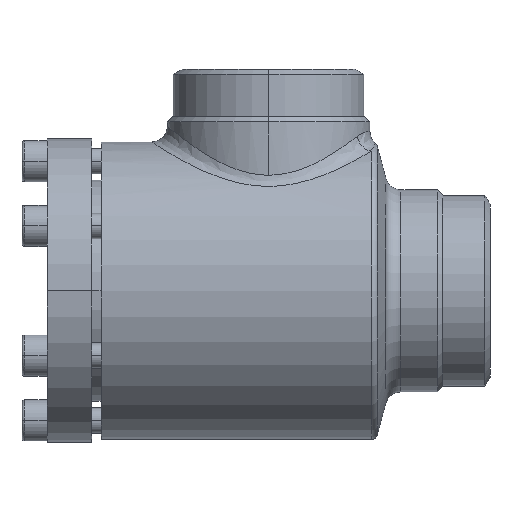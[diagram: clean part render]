
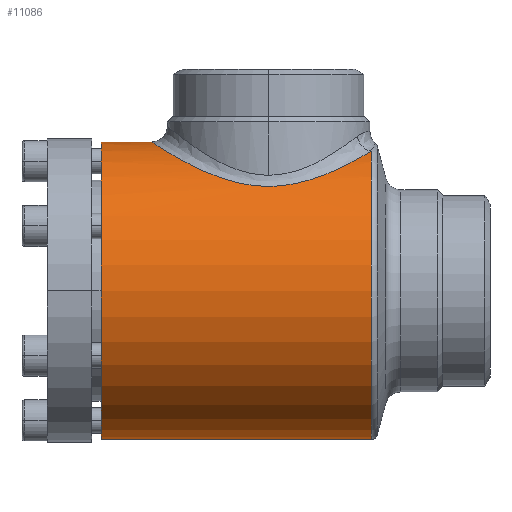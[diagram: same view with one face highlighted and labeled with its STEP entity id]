
A CAD part, left-side view. The second image highlights one B-rep face of the part: STEP entity #11086.
In plain terms, the highlighted cylindrical face has radius 47 mm (diameter 94 mm), a partial arc.
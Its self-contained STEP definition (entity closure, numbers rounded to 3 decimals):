
#1839 = EDGE_CURVE ( 'NONE', #11188, #7165, #8191, .T. ) ;
#3455 = VERTEX_POINT ( 'NONE', #12096 ) ;
#3725 = ORIENTED_EDGE ( 'NONE', *, *, #10987, .T. ) ;
#6629 = EDGE_CURVE ( 'NONE', #7398, #3455, #8636, .T. ) ;
#6778 = ORIENTED_EDGE ( 'NONE', *, *, #1839, .F. ) ;
#6964 = ORIENTED_EDGE ( 'NONE', *, *, #6629, .T. ) ;
#7165 = VERTEX_POINT ( 'NONE', #10686 ) ;
#7398 = VERTEX_POINT ( 'NONE', #10755 ) ;
#8191 = CIRCLE ( 'NONE', #8192, 47. ) ;
#8192 = AXIS2_PLACEMENT_3D ( 'NONE', #8193, #8194, #8195 ) ;
#8193 = CARTESIAN_POINT ( 'NONE',  ( 0., 0., 0. ) ) ;
#8194 = DIRECTION ( 'NONE',  ( 0., 1., 0. ) ) ;
#8195 = DIRECTION ( 'NONE',  ( 0., 0., 1. ) ) ;
#8326 = CARTESIAN_POINT ( 'NONE',  ( 0., 0., -47. ) ) ;
#8623 = LINE ( 'NONE', #8624, #8625 ) ;
#8624 = CARTESIAN_POINT ( 'NONE',  ( 0., -91., -47. ) ) ;
#8625 = VECTOR ( 'NONE', #8626, 1000. ) ;
#8626 = DIRECTION ( 'NONE',  ( 0., 1., 0. ) ) ;
#8636 = B_SPLINE_CURVE_WITH_KNOTS ( 'NONE', 3,
 ( #8637, #8638, #8639, #8640, #8641, #8642, #8643, #8644, #8645, #8646, #8647, #8648, #8649, #8651, #8652, #8653, #8654, #8655, #8656, #8657, #8658, #8659, #8660, #8661, #8662, #8663, #8664, #8665, #8666, #8669, #8670, #8671, #8672, #8673, #8674, #8675, #8676, #8677, #8678, #8679, #8680, #8681, #8682, #8683, #8684, #8686, #8687, #8688, #8689, #8690, #8691, #8692, #8693, #8694, #8695, #8696, #8697, #8698, #8699, #8700, #8701, #8704 ),
 .UNSPECIFIED., .F., .F.,
 ( 4, 2, 2, 2, 2, 2, 2, 2, 2, 2, 2, 2, 2, 2, 2, 2, 2, 2, 2, 2, 2, 2, 2, 2, 2, 2, 2, 2, 2, 2, 4 ),
 ( 0.017, 0.023, 0.026, 0.029, 0.035, 0.039, 0.04, 0.042, 0.048, 0.051, 0.052, 0.054, 0.06, 0.063, 0.066, 0.069, 0.072, 0.078, 0.081, 0.083, 0.084, 0.09, 0.093, 0.095, 0.096, 0.103, 0.106, 0.107, 0.109, 0.112, 0.115 ),
 .UNSPECIFIED. ) ;
#8637 = CARTESIAN_POINT ( 'NONE',  ( -16.073, -85.446, 44.166 ) ) ;
#8638 = CARTESIAN_POINT ( 'NONE',  ( -17.749, -84.43, 43.556 ) ) ;
#8639 = CARTESIAN_POINT ( 'NONE',  ( -19.293, -83.29, 42.887 ) ) ;
#8640 = CARTESIAN_POINT ( 'NONE',  ( -21.444, -81.41, 41.831 ) ) ;
#8641 = CARTESIAN_POINT ( 'NONE',  ( -22.133, -80.755, 41.469 ) ) ;
#8642 = CARTESIAN_POINT ( 'NONE',  ( -23.459, -79.389, 40.734 ) ) ;
#8643 = CARTESIAN_POINT ( 'NONE',  ( -24.096, -78.676, 40.359 ) ) ;
#8644 = CARTESIAN_POINT ( 'NONE',  ( -25.907, -76.48, 39.24 ) ) ;
#8645 = CARTESIAN_POINT ( 'NONE',  ( -26.989, -74.936, 38.497 ) ) ;
#8646 = CARTESIAN_POINT ( 'NONE',  ( -28.44, -72.491, 37.424 ) ) ;
#8647 = CARTESIAN_POINT ( 'NONE',  ( -28.894, -71.655, 37.073 ) ) ;
#8648 = CARTESIAN_POINT ( 'NONE',  ( -29.533, -70.366, 36.563 ) ) ;
#8649 = CARTESIAN_POINT ( 'NONE',  ( -29.739, -69.93, 36.396 ) ) ;
#8651 = CARTESIAN_POINT ( 'NONE',  ( -30.137, -69.047, 36.067 ) ) ;
#8652 = CARTESIAN_POINT ( 'NONE',  ( -30.328, -68.599, 35.906 ) ) ;
#8653 = CARTESIAN_POINT ( 'NONE',  ( -31.243, -66.344, 35.126 ) ) ;
#8654 = CARTESIAN_POINT ( 'NONE',  ( -31.842, -64.482, 34.576 ) ) ;
#8655 = CARTESIAN_POINT ( 'NONE',  ( -32.541, -61.591, 33.914 ) ) ;
#8656 = CARTESIAN_POINT ( 'NONE',  ( -32.74, -60.61, 33.721 ) ) ;
#8657 = CARTESIAN_POINT ( 'NONE',  ( -32.986, -59.111, 33.48 ) ) ;
#8658 = CARTESIAN_POINT ( 'NONE',  ( -33.059, -58.608, 33.408 ) ) ;
#8659 = CARTESIAN_POINT ( 'NONE',  ( -33.186, -57.603, 33.282 ) ) ;
#8660 = CARTESIAN_POINT ( 'NONE',  ( -33.239, -57.1, 33.229 ) ) ;
#8661 = CARTESIAN_POINT ( 'NONE',  ( -33.462, -54.583, 33.006 ) ) ;
#8662 = CARTESIAN_POINT ( 'NONE',  ( -33.49, -52.562, 32.976 ) ) ;
#8663 = CARTESIAN_POINT ( 'NONE',  ( -33.307, -49.52, 33.161 ) ) ;
#8664 = CARTESIAN_POINT ( 'NONE',  ( -33.207, -48.498, 33.262 ) ) ;
#8665 = CARTESIAN_POINT ( 'NONE',  ( -32.933, -46.49, 33.532 ) ) ;
#8666 = CARTESIAN_POINT ( 'NONE',  ( -32.761, -45.501, 33.702 ) ) ;
#8669 = CARTESIAN_POINT ( 'NONE',  ( -32.346, -43.55, 34.1 ) ) ;
#8670 = CARTESIAN_POINT ( 'NONE',  ( -32.103, -42.587, 34.33 ) ) ;
#8671 = CARTESIAN_POINT ( 'NONE',  ( -31.549, -40.688, 34.839 ) ) ;
#8672 = CARTESIAN_POINT ( 'NONE',  ( -31.237, -39.749, 35.121 ) ) ;
#8673 = CARTESIAN_POINT ( 'NONE',  ( -30.211, -37.009, 36.016 ) ) ;
#8674 = CARTESIAN_POINT ( 'NONE',  ( -29.406, -35.272, 36.683 ) ) ;
#8675 = CARTESIAN_POINT ( 'NONE',  ( -28.021, -32.781, 37.738 ) ) ;
#8676 = CARTESIAN_POINT ( 'NONE',  ( -27.529, -31.97, 38.099 ) ) ;
#8677 = CARTESIAN_POINT ( 'NONE',  ( -26.744, -30.781, 38.65 ) ) ;
#8678 = CARTESIAN_POINT ( 'NONE',  ( -26.475, -30.389, 38.835 ) ) ;
#8679 = CARTESIAN_POINT ( 'NONE',  ( -25.92, -29.615, 39.208 ) ) ;
#8680 = CARTESIAN_POINT ( 'NONE',  ( -25.634, -29.233, 39.396 ) ) ;
#8681 = CARTESIAN_POINT ( 'NONE',  ( -24.175, -27.357, 40.33 ) ) ;
#8682 = CARTESIAN_POINT ( 'NONE',  ( -22.902, -25.964, 41.072 ) ) ;
#8683 = CARTESIAN_POINT ( 'NONE',  ( -20.822, -24.029, 42.143 ) ) ;
#8684 = CARTESIAN_POINT ( 'NONE',  ( -20.099, -23.411, 42.494 ) ) ;
#8686 = CARTESIAN_POINT ( 'NONE',  ( -18.969, -22.523, 43.004 ) ) ;
#8687 = CARTESIAN_POINT ( 'NONE',  ( -18.584, -22.235, 43.172 ) ) ;
#8688 = CARTESIAN_POINT ( 'NONE',  ( -17.798, -21.671, 43.502 ) ) ;
#8689 = CARTESIAN_POINT ( 'NONE',  ( -17.396, -21.396, 43.664 ) ) ;
#8690 = CARTESIAN_POINT ( 'NONE',  ( -15.356, -20.064, 44.455 ) ) ;
#8691 = CARTESIAN_POINT ( 'NONE',  ( -13.635, -19.147, 45.018 ) ) ;
#8692 = CARTESIAN_POINT ( 'NONE',  ( -10.906, -18.006, 45.727 ) ) ;
#8693 = CARTESIAN_POINT ( 'NONE',  ( -9.972, -17.666, 45.94 ) ) ;
#8694 = CARTESIAN_POINT ( 'NONE',  ( -8.53, -17.219, 46.222 ) ) ;
#8695 = CARTESIAN_POINT ( 'NONE',  ( -8.041, -17.081, 46.31 ) ) ;
#8696 = CARTESIAN_POINT ( 'NONE',  ( -7.058, -16.829, 46.47 ) ) ;
#8697 = CARTESIAN_POINT ( 'NONE',  ( -6.563, -16.715, 46.542 ) ) ;
#8698 = CARTESIAN_POINT ( 'NONE',  ( -5.066, -16.41, 46.737 ) ) ;
#8699 = CARTESIAN_POINT ( 'NONE',  ( -4.049, -16.255, 46.836 ) ) ;
#8700 = CARTESIAN_POINT ( 'NONE',  ( -2.024, -16.051, 46.967 ) ) ;
#8701 = CARTESIAN_POINT ( 'NONE',  ( -1.011, -16., 47. ) ) ;
#8704 = CARTESIAN_POINT ( 'NONE',  ( 0., -16., 47. ) ) ;
#10475 = CARTESIAN_POINT ( 'NONE',  ( 0., -85.446, -47. ) ) ;
#10641 = LINE ( 'NONE', #10642, #10643 ) ;
#10642 = CARTESIAN_POINT ( 'NONE',  ( 0., -91., 47. ) ) ;
#10643 = VECTOR ( 'NONE', #10644, 1000. ) ;
#10644 = DIRECTION ( 'NONE',  ( 0., 1., 0. ) ) ;
#10686 = CARTESIAN_POINT ( 'NONE',  ( 0., 0., 47. ) ) ;
#10755 = CARTESIAN_POINT ( 'NONE',  ( -16.073, -85.446, 44.166 ) ) ;
#10970 = VERTEX_POINT ( 'NONE', #10475 ) ;
#10987 = EDGE_CURVE ( 'NONE', #3455, #7165, #10641, .T. ) ;
#11056 = ORIENTED_EDGE ( 'NONE', *, *, #11207, .F. ) ;
#11072 = EDGE_LOOP ( 'NONE', ( #11056, #11164, #6964, #3725, #6778 ) ) ;
#11086 = ADVANCED_FACE ( 'NONE', ( #11264 ), #11265, .T. ) ;
#11145 = EDGE_CURVE ( 'NONE', #10970, #7398, #11919, .T. ) ;
#11164 = ORIENTED_EDGE ( 'NONE', *, *, #11145, .T. ) ;
#11188 = VERTEX_POINT ( 'NONE', #8326 ) ;
#11207 = EDGE_CURVE ( 'NONE', #10970, #11188, #8623, .T. ) ;
#11264 = FACE_OUTER_BOUND ( 'NONE', #11072, .T. ) ;
#11265 = CYLINDRICAL_SURFACE ( 'NONE', #11266, 47. ) ;
#11266 = AXIS2_PLACEMENT_3D ( 'NONE', #11267, #11268, #11269 ) ;
#11267 = CARTESIAN_POINT ( 'NONE',  ( 0., -91., 0. ) ) ;
#11268 = DIRECTION ( 'NONE',  ( 0., 1., 0. ) ) ;
#11269 = DIRECTION ( 'NONE',  ( 0., 0., 1. ) ) ;
#11919 = CIRCLE ( 'NONE', #11920, 47. ) ;
#11920 = AXIS2_PLACEMENT_3D ( 'NONE', #11921, #11922, #11923 ) ;
#11921 = CARTESIAN_POINT ( 'NONE',  ( 0., -85.446, 0. ) ) ;
#11922 = DIRECTION ( 'NONE',  ( 0., 1., 0. ) ) ;
#11923 = DIRECTION ( 'NONE',  ( 0., 0., -1. ) ) ;
#12096 = CARTESIAN_POINT ( 'NONE',  ( 0., -16., 47. ) ) ;
